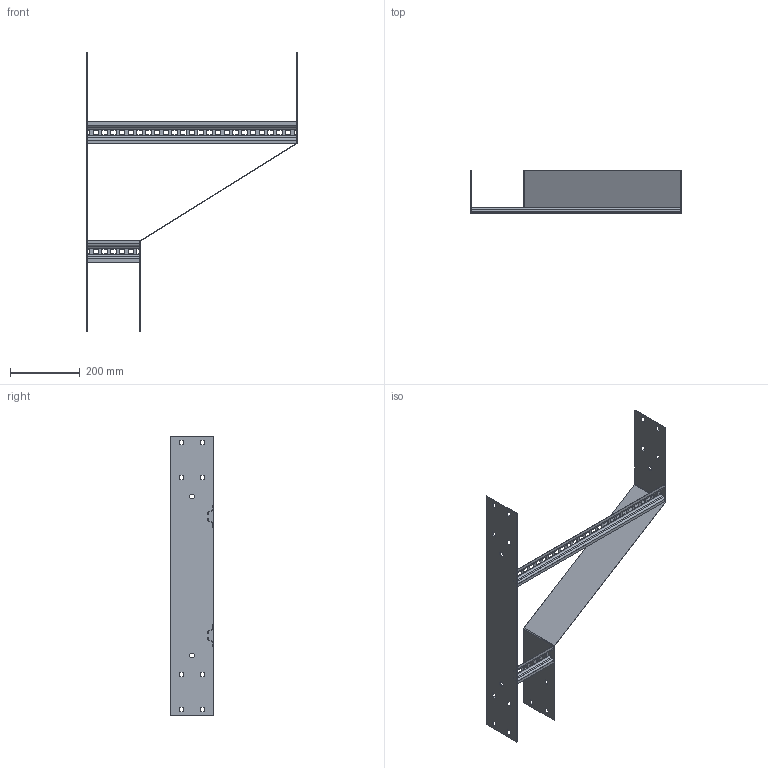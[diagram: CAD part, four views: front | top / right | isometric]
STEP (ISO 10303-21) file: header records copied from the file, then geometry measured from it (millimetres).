
FILE_DESCRIPTION (( 'STEP AP203' ), '1' );
FILE_NAME ('N3 LHR600150.STEP', '2022-10-20T23:08:57', ( '' ), ( '' ), 'SwSTEP 2.0', 'SolidWorks 2021', '' );
FILE_SCHEMA (( 'CONFIG_CONTROL_DESIGN' ));
Length unit declared in the file: millimetre
Products named in the file (5): N3 LHR600150; N3 Back Plate_800; N3 Reducer side plate_LHR150x600; Ladder Rung_Ladder Rung -  150mm; Ladder Rung_Ladder Rung -  600mm
Assembly tree (4 placements, depth 2):
  N3 LHR600150
    N3 Reducer side plate_LHR150x600
    Ladder Rung_Ladder Rung -  150mm
    Ladder Rung_Ladder Rung -  600mm
    N3 Back Plate_800
Bounding box: 604 x 124 x 800 mm (x, y, z)
Volume: 532888.3 mm3; surface area: 568751 mm2
Topology: 4 solids, 4 shells, 304 faces, 808 edges, 512 vertices
Faces by surface type: plane 276, cylinder 28
Entity records: 9903 total; most frequent: CARTESIAN_POINT 1631, ORIENTED_EDGE 1616, DIRECTION 1486, EDGE_CURVE 808, LINE 752, VECTOR 752, VERTEX_POINT 512, EDGE_LOOP 400
